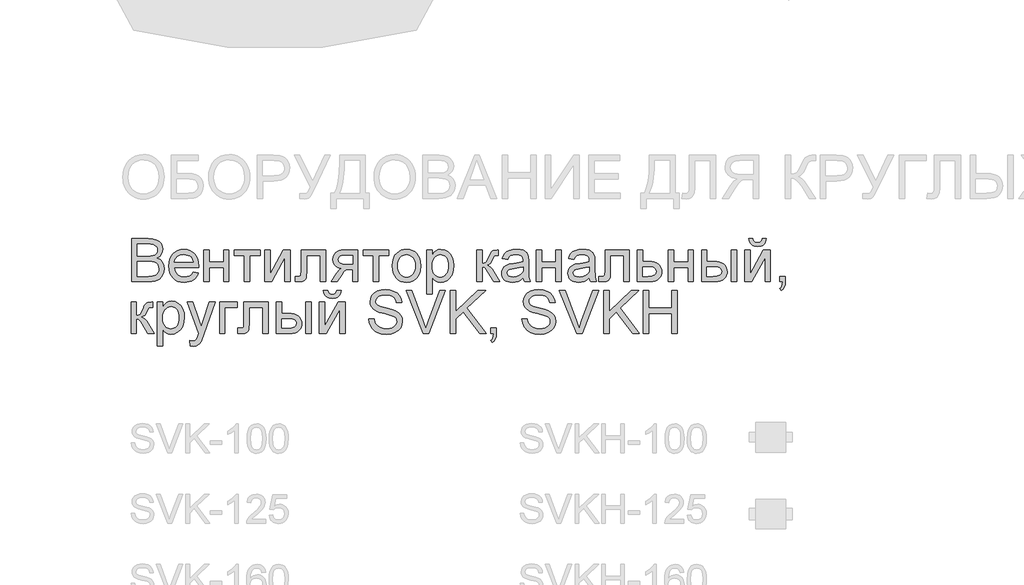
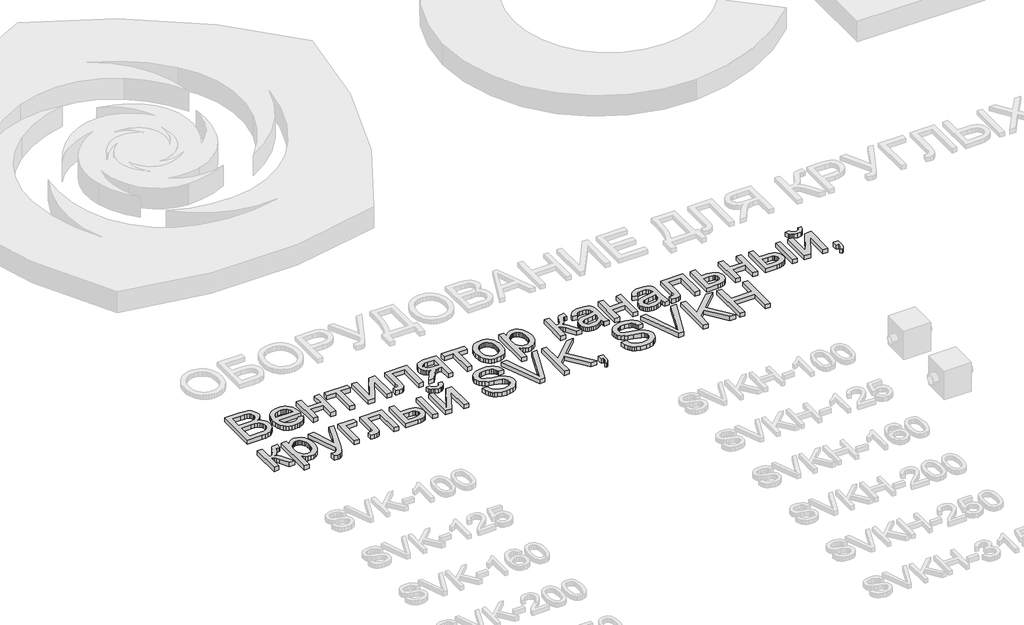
# One storey, part 17 of 31: 1 proxy.
"""IFC4 building model written with IfcOpenShell, lengths in millimetres."""

from ifc_helpers import new_model, si_unit, origin, origin_with_axes, place, context, project, spatial, polyline, outline, extrude, element, save

model = new_model("IFC4")

# Units and contexts
model_context = context("Model", 3, world=origin())
ifc_project = project(units=[si_unit("LENGTHUNIT", "METRE", prefix="MILLI")], contexts=[model_context])

# Site, building, storey
site = spatial("IfcSite", under=ifc_project)
building = spatial("IfcBuilding", under=site)
storey = spatial("IfcBuildingStorey", under=building, Name="Этаж 01", Elevation=0.0)

# Proxy
placement = place(None, origin())
element("IfcBuildingElementProxy", 1, Name="450 мм Arial", ObjectType="450 мм Arial", at=placement, inside=storey, context=model_context, shape_type="SweptSolid", body=[
    extrude(outline(polyline([(819.0852891, -2479.5055236), (819.0852891, -2029.8493808), (990.6703846, -2029.8493808), (1037.8617749, -2033.1564832), (1074.7064631, -2043.0777903), (1102.9471962, -2059.8603056), (1124.326721, -2083.7510327), (1137.7884116, -2111.8545416), (1142.2756418, -2141.2754025), (1138.5019773, -2168.3497302), (1127.1809837, -2193.8048128), (1108.2303265, -2216.0762947), (1081.5676713, -2233.5998205), (1113.4173999, -2250.2313893), (1136.9513442, -2275.5355253), (1151.4833832, -2307.8380936), (1156.3273962, -2345.4649596), (1153.0202939, -2376.8206812), (1143.0989868, -2405.8984817), (1128.2924994, -2430.6262762), (1110.3298562, -2448.9319797), (1088.3328226, -2462.1878341), (1061.423164, -2471.7660807), (1028.7226455, -2477.5706629), (989.3530327, -2479.5055236), (819.0852891, -2479.5055236)]), holes=[polyline([(875.292307, -2212.5221888), (977.9359822, -2212.5221888), (1013.8338236, -2211.3146162), (1037.8754973, -2207.6918982), (1058.8570721, -2199.3623914), (1073.9380078, -2186.8887149), (1083.0359699, -2170.4629824), (1086.0686239, -2150.2773077), (1083.2418061, -2130.681697), (1074.7613528, -2113.6110109), (1061.0114915, -2100.2865445), (1042.3764499, -2091.9295929), (1013.778934, -2087.5246972), (970.1416496, -2086.0563987), (875.292307, -2086.0563987), (875.292307, -2212.5221888)]), polyline([(875.292307, -2423.2985058), (990.5606053, -2423.2985058), (1032.2767514, -2421.1029192), (1051.639081, -2416.2314613), (1067.5708065, -2408.8625237), (1080.5247677, -2398.3099854), (1090.9538042, -2383.8877257), (1097.8287348, -2366.2406981), (1100.1203784, -2346.0138562), (1097.4307848, -2322.5210792), (1089.3620039, -2302.3216822), (1075.2690822, -2286.5271809), (1054.5070661, -2276.2490909), (1025.0999276, -2270.6091777), (985.0716387, -2268.7292067), (875.292307, -2268.7292067), (875.292307, -2423.2985058)])]), origin_with_axes(), (0.0, 0.0, 1.0), 50.0),
    extrude(outline(polyline([(1457.7814412, -2381.1432424), (1512.8906657, -2388.1691196), (1504.4410878, -2410.2416265), (1493.0343291, -2429.6931519), (1478.6703897, -2446.5236957), (1461.3492695, -2460.7332579), (1441.24936, -2472.0199455), (1418.5490525, -2480.0818651), (1393.2483472, -2484.9190169), (1365.3472439, -2486.5314009), (1330.4717224, -2483.7491809), (1299.3973103, -2475.4025211), (1272.1240076, -2461.4914214), (1248.6518142, -2442.0158818), (1229.7766304, -2417.5179378), (1216.2943562, -2388.5396249), (1208.2049917, -2355.0809429), (1205.5085369, -2317.141892), (1208.2324365, -2277.9163645), (1216.4041355, -2243.3427362), (1230.0236339, -2213.4210071), (1249.0909316, -2188.1511772), (1272.5013741, -2168.0752819), (1299.1503068, -2153.7353567), (1329.0377299, -2145.1314016), (1362.1636433, -2142.2634165), (1394.2226387, -2145.1245404), (1423.2146741, -2153.7079119), (1449.1397494, -2168.013531), (1471.9978647, -2188.0413979), (1490.6569205, -2213.2563381), (1503.9848175, -2243.1231776), (1511.9815557, -2277.6419162), (1514.6471351, -2316.812554), (1514.3177971, -2331.9621018), (1261.7155547, -2331.9621018), (1264.971198, -2354.3913915), (1271.444748, -2374.0350307), (1281.1362046, -2390.8930193), (1294.0455679, -2404.9653574), (1309.4592722, -2416.0599311), (1326.6637519, -2423.9846266), (1345.6590069, -2428.7394439), (1366.4450372, -2430.324383), (1396.3599051, -2427.3877859), (1421.5542617, -2418.5779945), (1442.0281071, -2403.3461122), (1457.7814412, -2381.1432424)]), holes=[polyline([(1261.7155547, -2275.7550839), (1458.4401172, -2275.7550839), (1450.8378985, -2246.0597747), (1435.9353542, -2224.817474), (1420.607415, -2213.2906442), (1403.1662237, -2205.0571943), (1383.6117802, -2200.1171244), (1361.9440846, -2198.4704344), (1324.0564927, -2203.7261199), (1292.7282159, -2219.4931764), (1280.2716924, -2230.8930739), (1270.950741, -2244.0700243), (1264.7653618, -2259.0240276), (1261.7155547, -2275.7550839)])]), origin_with_axes(), (0.0, 0.0, 1.0), 50.0),
    extrude(outline(polyline([(1570.8541529, -2149.2892938), (1627.0611708, -2149.2892938), (1627.0611708, -2275.7550839), (1774.6045926, -2275.7550839), (1774.6045926, -2149.2892938), (1830.8116105, -2149.2892938), (1830.8116105, -2479.5055236), (1774.6045926, -2479.5055236), (1774.6045926, -2331.9621018), (1627.0611708, -2331.9621018), (1627.0611708, -2479.5055236), (1570.8541529, -2479.5055236), (1570.8541529, -2149.2892938)])), origin_with_axes(), (0.0, 0.0, 1.0), 50.0),
    extrude(outline(polyline([(1887.0186283, -2149.2892938), (2154.0019631, -2149.2892938), (2154.0019631, -2205.4963116), (2048.6138046, -2205.4963116), (2048.6138046, -2479.5055236), (1992.4067868, -2479.5055236), (1992.4067868, -2205.4963116), (1887.0186283, -2205.4963116), (1887.0186283, -2149.2892938)])), origin_with_axes(), (0.0, 0.0, 1.0), 50.0),
    extrude(outline(polyline([(2203.1831037, -2149.2892938), (2259.3901216, -2149.2892938), (2259.3901216, -2401.1230808), (2397.4925209, -2149.2892938), (2470.1664385, -2149.2892938), (2470.1664385, -2479.5055236), (2413.9594207, -2479.5055236), (2413.9594207, -2229.2086473), (2276.735256, -2479.5055236), (2203.1831037, -2479.5055236), (2203.1831037, -2149.2892938)])), origin_with_axes(), (0.0, 0.0, 1.0), 50.0),
    extrude(outline(polyline([(2582.5804742, -2149.2892938), (2835.5120546, -2149.2892938), (2835.5120546, -2479.1761856), (2779.3050367, -2479.1761856), (2779.3050367, -2205.4963116), (2638.7874921, -2205.4963116), (2638.7874921, -2363.0296527), (2635.0001051, -2435.7035703), (2627.9056158, -2452.1567476), (2614.1969218, -2466.3868935), (2593.3937384, -2476.2258661), (2565.0157812, -2479.5055236), (2519.3475792, -2476.651261), (2519.3475792, -2423.2985058), (2544.4870461, -2423.2985058), (2569.9009614, -2419.8404568), (2576.2544403, -2415.3669491), (2580.0555496, -2408.8625237), (2582.5804742, -2359.846052), (2582.5804742, -2149.2892938)])), origin_with_axes(), (0.0, 0.0, 1.0), 50.0),
    extrude(outline(polyline([(3172.7541617, -2149.2892938), (3172.7541617, -2479.5055236), (3116.5471438, -2479.5055236), (3116.5471438, -2353.0397335), (3085.9187103, -2353.0397335), (3061.492809, -2354.8236476), (3044.2025642, -2360.17539), (3027.5435506, -2375.7366103), (3005.0113428, -2408.148958), (2960.2213754, -2479.5055236), (2895.232011, -2479.5055236), (2951.6585876, -2389.2669129), (2976.5784959, -2356.8820101), (2988.2974395, -2347.4409876), (2999.5223762, -2342.5009176), (2978.8838618, -2337.9382141), (2961.0996101, -2330.7270843), (2946.169621, -2320.8675281), (2934.0938945, -2308.3595455), (2918.1210017, -2278.6093465), (2912.7967041, -2244.687533), (2914.6149243, -2224.4469688), (2920.0695849, -2206.2098773), (2929.1606858, -2189.9762586), (2941.888227, -2175.7461127), (2958.0600948, -2164.1712544), (2977.4841754, -2155.9034985), (3000.1604686, -2150.9428449), (3026.0889745, -2149.2892938), (3172.7541617, -2149.2892938)]), holes=[polyline([(3116.5471438, -2205.4963116), (3042.4460949, -2205.4963116), (3004.1742754, -2208.7485243), (2991.2443285, -2212.8137902), (2982.4516901, -2218.5051624), (2972.365714, -2232.625529), (2969.003722, -2248.968927), (2973.9575143, -2270.3896191), (2988.8188914, -2285.2509961), (3016.2774467, -2293.9372857), (3059.022774, -2296.8327156), (3116.5471438, -2296.8327156), (3116.5471438, -2205.4963116)])]), origin_with_axes(), (0.0, 0.0, 1.0), 50.0),
    extrude(outline(polyline([(3228.9611795, -2149.2892938), (3495.9445143, -2149.2892938), (3495.9445143, -2205.4963116), (3390.5563559, -2205.4963116), (3390.5563559, -2479.5055236), (3334.349338, -2479.5055236), (3334.349338, -2205.4963116), (3228.9611795, -2205.4963116), (3228.9611795, -2149.2892938)])), origin_with_axes(), (0.0, 0.0, 1.0), 50.0),
    extrude(outline(polyline([(3531.0739005, -2314.3974087), (3534.1134157, -2271.6314978), (3543.2319615, -2234.7799484), (3558.4295377, -2203.8427604), (3579.7061445, -2178.819934), (3601.1268366, -2162.8264576), (3624.7705601, -2151.4025459), (3650.6373152, -2144.5481989), (3678.7271017, -2142.2634165), (3709.7363323, -2145.0456365), (3737.7746598, -2153.3922963), (3762.842084, -2167.303396), (3784.9386052, -2186.7789355), (3802.973291, -2211.160239), (3815.8552095, -2239.7886304), (3823.5843605, -2272.6641096), (3826.1607442, -2309.7866768), (3821.604902, -2366.5700361), (3815.9100991, -2389.8775605), (3807.9373752, -2409.795648), (3785.5561139, -2442.1668284), (3754.8590683, -2466.3868935), (3718.3986077, -2481.495274), (3678.7271017, -2486.5314009), (3647.2650313, -2483.7594727), (3618.965978, -2475.4436884), (3593.8299416, -2461.5840477), (3571.8569222, -2442.1805508), (3554.0143502, -2417.5625357), (3541.2696559, -2388.0593403), (3533.6228394, -2353.6709646), (3531.0739005, -2314.3974087)]), holes=[polyline([(3587.2809184, -2314.2876294), (3588.9070247, -2341.5506403), (3593.7853438, -2365.1566272), (3601.9158755, -2385.1055902), (3613.29862, -2401.3975291), (3627.1445382, -2414.0530277), (3642.6645912, -2423.0926695), (3659.858779, -2428.5164546), (3678.7271017, -2430.324383), (3697.4993674, -2428.5061628), (3714.6249432, -2423.0515023), (3730.1038289, -2413.9604014), (3743.9360247, -2401.2328601), (3755.3187692, -2384.7796828), (3763.449301, -2364.5116736), (3768.32762, -2340.4288327), (3769.9537264, -2312.5311601), (3768.3173282, -2286.1326614), (3763.4081337, -2263.1441832), (3755.2261429, -2243.5657255), (3743.7713557, -2227.3972883), (3729.8877009, -2214.7417897), (3714.4191069, -2205.7021479), (3697.3655739, -2200.2783627), (3678.7271017, -2198.4704344), (3659.858779, -2200.2715015), (3642.6645912, -2205.674703), (3627.1445382, -2214.6800388), (3613.29862, -2227.287509), (3601.9158755, -2243.5314195), (3593.7853438, -2263.4460764), (3588.9070247, -2287.0314797), (3587.2809184, -2314.2876294)])]), origin_with_axes(), (0.0, 0.0, 1.0), 50.0),
    extrude(outline(polyline([(3889.3936393, -2605.9713138), (3889.3936393, -2149.2892938), (3945.6006572, -2149.2892938), (3945.6006572, -2204.3985183), (3963.9338056, -2177.2144113), (3984.4625406, -2157.797192), (4008.3944349, -2146.1468604), (4036.9370612, -2142.2634165), (4074.9481548, -2147.6974934), (4108.1838475, -2163.9997242), (4135.2444527, -2190.1820948), (4154.7302841, -2225.2565913), (4166.5041175, -2266.6708442), (4170.4287286, -2311.8724841), (4165.996388, -2359.942109), (4152.6993665, -2402.9344397), (4130.9630588, -2438.6676122), (4101.2128599, -2464.9597622), (4066.5637583, -2481.1384912), (4030.1307426, -2486.5314009), (4004.2914324, -2482.9224053), (3981.2240503, -2472.0954187), (3961.477493, -2455.7520207), (3945.6006572, -2435.5937909), (3945.6006572, -2605.9713138), (3889.3936393, -2605.9713138)]), holes=[polyline([(3945.6006572, -2317.0321127), (3947.1204148, -2344.1201628), (3951.6796877, -2367.4208259), (3959.2784758, -2386.9341021), (3969.9167791, -2402.6599914), (3982.7232243, -2414.7631627), (3996.8264378, -2423.4082851), (4012.2264197, -2428.5953585), (4028.92317, -2430.324383), (4045.8600625, -2428.5336077), (4061.5413539, -2423.1612816), (4075.9670442, -2414.2074049), (4089.1371334, -2401.6719774), (4100.111636, -2385.3766079), (4107.9505664, -2365.1429048), (4112.6539246, -2340.9708682), (4114.2217107, -2312.8604981), (4112.6916613, -2286.005729), (4108.101513, -2262.7462331), (4100.4512658, -2243.0820103), (4089.7409197, -2227.0130606), (4076.9035991, -2214.5256616), (4062.8724283, -2205.6060909), (4047.6474072, -2200.2543485), (4031.2285359, -2198.4704344), (4014.8611237, -2200.3675585), (3999.4611418, -2206.0589307), (3985.0285903, -2215.5445511), (3971.5634691, -2228.8244196), (3960.2047389, -2245.7201449), (3952.0913601, -2266.0533355), (3947.2233329, -2289.8239914), (3945.6006572, -2317.0321127)])]), origin_with_axes(), (0.0, 0.0, 1.0), 50.0),
    extrude(outline(polyline([(4409.3085544, -2149.2892938), (4465.5155723, -2149.2892938), (4465.5155723, -2289.8068384), (4488.3771181, -2287.2819138), (4503.1698831, -2279.7071399), (4516.2610684, -2259.9468602), (4534.0178753, -2220.8654181), (4548.3303557, -2188.9059101), (4559.6513493, -2170.0924771), (4570.2176099, -2159.841832), (4582.2658916, -2153.5706877), (4623.3782513, -2149.2892938), (4634.1366258, -2149.2892938), (4634.1366258, -2205.8256496), (4618.9870781, -2205.4963116), (4601.422385, -2206.9783326), (4591.5422451, -2211.4243955), (4572.2210827, -2248.4200303), (4560.3511925, -2273.0792127), (4549.5516507, -2288.4345967), (4536.4741878, -2298.6852418), (4517.7705342, -2308.0302075), (4535.5822308, -2315.9411805), (4553.2292584, -2329.9037393), (4570.7116169, -2349.9178837), (4588.0293065, -2375.9836138), (4648.1883803, -2479.5055236), (4584.2968092, -2479.5055236), (4525.3453081, -2378.1792004), (4509.427305, -2351.2146521), (4495.7048885, -2335.3103714), (4481.8452479, -2327.5297613), (4465.5155723, -2324.9362245), (4465.5155723, -2479.5055236), (4409.3085544, -2479.5055236), (4409.3085544, -2149.2892938)])), origin_with_axes(), (0.0, 0.0, 1.0), 50.0),
    extrude(outline(polyline([(4894.0940834, -2437.3502602), (4867.2393144, -2460.3764751), (4839.5886452, -2475.4436884), (4810.5108447, -2483.7594727), (4779.3746817, -2486.5314009), (4754.3484247, -2484.8641273), (4732.4028502, -2479.8623065), (4713.5379581, -2471.5259385), (4697.7537486, -2459.8550233), (4685.2903638, -2445.5905713), (4676.3879462, -2429.4735932), (4671.0464955, -2411.5040888), (4669.266012, -2391.6820582), (4671.9556056, -2368.3813951), (4680.0243865, -2347.2214289), (4692.4706183, -2329.1078392), (4708.2925644, -2314.9463054), (4726.8864388, -2304.2428205), (4747.6484549, -2296.5033776), (4796.2806988, -2288.0503691), (4853.750179, -2279.1582432), (4893.7647454, -2268.7292067), (4894.0940834, -2256.2143629), (4890.224362, -2231.1297856), (4878.6151976, -2214.7177755), (4852.6523857, -2202.5322697), (4816.4800959, -2198.4704344), (4782.9973997, -2201.1737504), (4759.614402, -2209.2836986), (4743.6689541, -2224.2822998), (4732.4989071, -2247.651575), (4676.2918892, -2240.6256978), (4686.0485273, -2209.8874849), (4700.6080112, -2185.7360319), (4721.3288601, -2167.2656593), (4749.5695932, -2153.5706877), (4784.1089154, -2145.0902343), (4823.7255318, -2142.2634165), (4861.722903, -2144.7608963), (4891.8436071, -2152.2533357), (4914.5542064, -2163.5194396), (4930.3212629, -2177.337913), (4940.7777442, -2194.4223215), (4947.556618, -2215.4862308), (4950.3011013, -2264.6673714), (4950.3011013, -2334.5968057), (4953.1553639, -2432.2455213), (4964.3528557, -2479.5055236), (4908.1458379, -2479.5055236), (4899.1439327, -2459.9648026), (4894.0940834, -2437.3502602)]), holes=[polyline([(4894.0940834, -2324.9362245), (4856.3299933, -2334.2949126), (4803.4163554, -2342.1715796), (4755.0585598, -2351.2832642), (4742.4751039, -2357.5132412), (4733.1575831, -2366.1034739), (4727.3941682, -2376.3952863), (4725.4730299, -2387.7300023), (4729.6583669, -2404.4439056), (4742.2143779, -2418.1388772), (4762.8666147, -2427.2780066), (4791.3406289, -2430.324383), (4821.5299451, -2426.962391), (4848.2063227, -2416.8764149), (4869.8328511, -2402.0150378), (4884.8726195, -2384.326843), (4891.541714, -2366.1034739), (4893.7647454, -2340.8542276), (4894.0940834, -2324.9362245)])]), origin_with_axes(), (0.0, 0.0, 1.0), 50.0),
    extrude(outline(polyline([(5027.5857508, -2149.2892938), (5083.7927687, -2149.2892938), (5083.7927687, -2275.7550839), (5231.3361905, -2275.7550839), (5231.3361905, -2149.2892938), (5287.5432084, -2149.2892938), (5287.5432084, -2479.5055236), (5231.3361905, -2479.5055236), (5231.3361905, -2331.9621018), (5083.7927687, -2331.9621018), (5083.7927687, -2479.5055236), (5027.5857508, -2479.5055236), (5027.5857508, -2149.2892938)])), origin_with_axes(), (0.0, 0.0, 1.0), 50.0),
    extrude(outline(polyline([(5582.6300521, -2437.3502602), (5555.7752831, -2460.3764751), (5528.1246139, -2475.4436884), (5499.0468134, -2483.7594727), (5467.9106504, -2486.5314009), (5442.8843934, -2484.8641273), (5420.9388189, -2479.8623065), (5402.0739268, -2471.5259385), (5386.2897173, -2459.8550233), (5373.8263325, -2445.5905713), (5364.9239148, -2429.4735932), (5359.5824642, -2411.5040888), (5357.8019807, -2391.6820582), (5360.4915743, -2368.3813951), (5368.5603552, -2347.2214289), (5381.0065869, -2329.1078392), (5396.8285331, -2314.9463054), (5415.4224074, -2304.2428205), (5436.1844236, -2296.5033776), (5484.8166675, -2288.0503691), (5542.2861477, -2279.1582432), (5582.3007141, -2268.7292067), (5582.6300521, -2256.2143629), (5578.7603307, -2231.1297856), (5567.1511663, -2214.7177755), (5541.1883544, -2202.5322697), (5505.0160646, -2198.4704344), (5471.5333684, -2201.1737504), (5448.1503707, -2209.2836986), (5432.2049228, -2224.2822998), (5421.0348758, -2247.651575), (5364.8278579, -2240.6256978), (5374.584496, -2209.8874849), (5389.1439799, -2185.7360319), (5409.8648288, -2167.2656593), (5438.1055619, -2153.5706877), (5472.6448841, -2145.0902343), (5512.2615005, -2142.2634165), (5550.2588717, -2144.7608963), (5580.3795758, -2152.2533357), (5603.0901751, -2163.5194396), (5618.8572316, -2177.337913), (5629.3137129, -2194.4223215), (5636.0925867, -2215.4862308), (5638.83707, -2264.6673714), (5638.83707, -2334.5968057), (5641.6913326, -2432.2455213), (5652.8888244, -2479.5055236), (5596.6818066, -2479.5055236), (5587.6799014, -2459.9648026), (5582.6300521, -2437.3502602)]), holes=[polyline([(5582.6300521, -2324.9362245), (5544.865962, -2334.2949126), (5491.9523241, -2342.1715796), (5443.5945285, -2351.2832642), (5431.0110725, -2357.5132412), (5421.6935518, -2366.1034739), (5415.9301369, -2376.3952863), (5414.0089985, -2387.7300023), (5418.1943356, -2404.4439056), (5430.7503466, -2418.1388772), (5451.4025834, -2427.2780066), (5479.8765976, -2430.324383), (5510.0659138, -2426.962391), (5536.7422914, -2416.8764149), (5558.3688198, -2402.0150378), (5573.4085882, -2384.326843), (5580.0776826, -2366.1034739), (5582.3007141, -2340.8542276), (5582.6300521, -2324.9362245)])]), origin_with_axes(), (0.0, 0.0, 1.0), 50.0),
    extrude(outline(polyline([(5744.2252284, -2149.2892938), (5997.1568088, -2149.2892938), (5997.1568088, -2479.1761856), (5940.9497909, -2479.1761856), (5940.9497909, -2205.4963116), (5800.4322463, -2205.4963116), (5800.4322463, -2363.0296527), (5796.6448593, -2435.7035703), (5789.55037, -2452.1567476), (5775.841676, -2466.3868935), (5755.0384926, -2476.2258661), (5726.6605353, -2479.5055236), (5680.9923333, -2476.651261), (5680.9923333, -2423.2985058), (5706.1318003, -2423.2985058), (5731.5457156, -2419.8404568), (5737.8991944, -2415.3669491), (5741.7003038, -2408.8625237), (5744.2252284, -2359.846052), (5744.2252284, -2149.2892938)])), origin_with_axes(), (0.0, 0.0, 1.0), 50.0),
    extrude(outline(polyline([(6081.4673355, -2149.2892938), (6137.6743534, -2149.2892938), (6137.6743534, -2268.7292067), (6202.4441591, -2268.7292067), (6232.3453046, -2270.4891066), (6258.5962873, -2275.7688063), (6281.1971072, -2284.5683059), (6300.1477644, -2296.8876053), (6315.1326432, -2312.3013096), (6325.836128, -2330.3840239), (6332.2582189, -2351.1357482), (6334.3989159, -2374.5564825), (6332.5772651, -2395.4522922), (6327.1123127, -2414.7768852), (6318.0040588, -2432.5302615), (6305.2525033, -2448.7124211), (6288.4940022, -2462.1844035), (6267.3649114, -2471.807248), (6241.865231, -2477.5809547), (6211.994961, -2479.5055236), (6081.4673355, -2479.5055236), (6081.4673355, -2149.2892938)]), holes=[polyline([(6137.6743534, -2423.2985058), (6190.148874, -2423.2985058), (6230.8632836, -2420.3481862), (6257.9376113, -2411.4972276), (6273.1283263, -2396.3888471), (6278.191898, -2374.6662618), (6274.4456783, -2356.3056686), (6263.2070192, -2340.0857723), (6253.4400893, -2333.4578452), (6239.1241783, -2328.7236115), (6196.8454132, -2324.9362245), (6137.6743534, -2324.9362245), (6137.6743534, -2423.2985058)])]), origin_with_axes(), (0.0, 0.0, 1.0), 50.0),
    extrude(outline(polyline([(6404.6576882, -2149.2892938), (6460.864706, -2149.2892938), (6460.864706, -2275.7550839), (6608.4081279, -2275.7550839), (6608.4081279, -2149.2892938), (6664.6151458, -2149.2892938), (6664.6151458, -2479.5055236), (6608.4081279, -2479.5055236), (6608.4081279, -2331.9621018), (6460.864706, -2331.9621018), (6460.864706, -2479.5055236), (6404.6576882, -2479.5055236), (6404.6576882, -2149.2892938)])), origin_with_axes(), (0.0, 0.0, 1.0), 50.0),
    extrude(outline(polyline([(6748.9256725, -2149.2892938), (6805.1326904, -2149.2892938), (6805.1326904, -2268.7292067), (6874.6230074, -2268.7292067), (6906.5996684, -2270.4891066), (6934.6860243, -2275.7688063), (6958.8820751, -2284.5683059), (6979.1878209, -2296.8876053), (6995.2533399, -2312.3013096), (7006.7287107, -2330.3840239), (7013.6139332, -2351.1357482), (7015.9090073, -2374.5564825), (7013.9844384, -2395.4522922), (7008.2107317, -2414.7768852), (6998.5878871, -2432.5302615), (6985.1159048, -2448.7124211), (6967.4174181, -2462.1844035), (6945.1150608, -2471.807248), (6918.2088327, -2477.5809547), (6886.6987339, -2479.5055236), (6748.9256725, -2479.5055236), (6748.9256725, -2149.2892938)]), holes=[polyline([(6805.1326904, -2423.2985058), (6862.8766189, -2423.2985058), (6907.6391414, -2420.3481862), (6937.4167851, -2411.4972276), (6954.1306884, -2396.3888471), (6959.7019895, -2374.6662618), (6955.5715421, -2356.3056686), (6943.1802001, -2340.0857723), (6932.4252561, -2333.4578452), (6916.6822139, -2328.7236115), (6870.2318341, -2324.9362245), (6805.1326904, -2324.9362245), (6805.1326904, -2423.2985058)])]), origin_with_axes(), (0.0, 0.0, 1.0), 50.0),
    extrude(outline(polyline([(7058.0642707, -2149.2892938), (7114.2712886, -2149.2892938), (7114.2712886, -2479.5055236), (7058.0642707, -2479.5055236), (7058.0642707, -2149.2892938)])), origin_with_axes(), (0.0, 0.0, 1.0), 50.0),
    extrude(outline(polyline([(7381.2546234, -2029.8493808), (7423.4098868, -2029.8493808), (7414.3393695, -2065.8432792), (7406.3769373, -2080.2895532), (7396.1297228, -2092.3687102), (7383.8035622, -2101.9023591), (7369.6042918, -2108.7121083), (7335.5864214, -2114.1599076), (7298.6731211, -2108.7532755), (7283.3245982, -2101.9949854), (7270.0481603, -2092.5333792), (7259.0359211, -2080.5056812), (7250.4799944, -2066.0491155), (7240.7370787, -2029.8493808), (7282.8923421, -2029.8493808), (7288.820426, -2048.3609206), (7298.7005659, -2061.520718), (7312.5876514, -2069.3836627), (7330.5365721, -2072.0046442), (7350.7908588, -2069.4659972), (7365.4463996, -2061.850056), (7375.3265395, -2048.7725931), (7381.2546234, -2029.8493808)])), origin_with_axes(), (0.0, 0.0, 1.0), 50.0),
    extrude(outline(polyline([(7198.5818154, -2149.2892938), (7254.7888332, -2149.2892938), (7254.7888332, -2401.1230808), (7392.8912325, -2149.2892938), (7465.5651502, -2149.2892938), (7465.5651502, -2479.5055236), (7409.3581323, -2479.5055236), (7409.3581323, -2229.2086473), (7272.1339676, -2479.5055236), (7198.5818154, -2479.5055236), (7198.5818154, -2149.2892938)])), origin_with_axes(), (0.0, 0.0, 1.0), 50.0),
    extrude(outline(polyline([(7563.9274314, -2479.5055236), (7563.9274314, -2423.2985058), (7620.1344492, -2423.2985058), (7620.1344492, -2479.5055236), (7617.6095246, -2511.6571454), (7610.0347507, -2536.9750038), (7596.9710102, -2556.3922231), (7577.9791859, -2570.8419276), (7563.9274314, -2549.764296), (7576.1129372, -2539.5822629), (7584.5659458, -2525.5030636), (7589.6981295, -2505.9897874), (7591.921161, -2479.5055236), (7563.9274314, -2479.5055236)])), origin_with_axes(), (0.0, 0.0, 1.0), 50.0),
    extrude(outline(polyline([(812.0594119, -2689.7213769), (868.2664298, -2689.7213769), (868.2664298, -2830.2389216), (891.1279756, -2827.7139969), (905.9207405, -2820.139223), (919.0119258, -2800.3789433), (936.7687328, -2761.2975012), (951.0812131, -2729.3379933), (962.4022067, -2710.5245603), (972.9684674, -2700.2739152), (985.0167491, -2694.0027709), (1026.1291088, -2689.7213769), (1036.8874833, -2689.7213769), (1036.8874833, -2746.2577328), (1021.7379355, -2745.9283948), (1004.1732424, -2747.4104158), (994.2931026, -2751.8564787), (974.9719402, -2788.8521135), (963.10205, -2813.5112959), (952.3025082, -2828.8666799), (939.2250453, -2839.117325), (920.5213917, -2848.4622906), (938.3330882, -2856.3732637), (955.9801158, -2870.3358225), (973.4624744, -2890.3499669), (990.780164, -2916.415697), (1050.9392378, -3019.9376068), (987.0476667, -3019.9376068), (928.0961656, -2918.6112836), (912.1781624, -2891.6467353), (898.455746, -2875.7424546), (884.5961053, -2867.9618444), (868.2664298, -2865.3683077), (868.2664298, -3019.9376068), (812.0594119, -3019.9376068), (812.0594119, -2689.7213769)])), origin_with_axes(), (0.0, 0.0, 1.0), 50.0),
    extrude(outline(polyline([(1086.0686239, -3146.403397), (1086.0686239, -2689.7213769), (1142.2756418, -2689.7213769), (1142.2756418, -2744.8306015), (1160.6087902, -2717.6464944), (1181.1375252, -2698.2292751), (1205.0694195, -2686.5789436), (1233.6120458, -2682.6954997), (1271.6231394, -2688.1295766), (1304.8588321, -2704.4318074), (1331.9194374, -2730.614178), (1351.4052687, -2765.6886745), (1363.1791021, -2807.1029274), (1367.1037132, -2852.3045672), (1362.6713727, -2900.3741921), (1349.3743511, -2943.3665229), (1327.6380434, -2979.0996954), (1297.8878445, -3005.3918454), (1263.2387429, -3021.5705744), (1226.8057272, -3026.963484), (1200.966417, -3023.3544885), (1177.8990349, -3012.5275019), (1158.1524776, -2996.1841039), (1142.2756418, -2976.0258741), (1142.2756418, -3146.403397), (1086.0686239, -3146.403397)]), holes=[polyline([(1142.2756418, -2857.4641958), (1143.7953994, -2884.5522459), (1148.3546723, -2907.8529091), (1155.9534604, -2927.3661853), (1166.5917638, -2943.0920746), (1179.3982089, -2955.1952459), (1193.5014225, -2963.8403683), (1208.9014043, -2969.0274417), (1225.5981546, -2970.7564662), (1242.5350471, -2968.9656908), (1258.2163385, -2963.5933648), (1272.6420288, -2954.6394881), (1285.812118, -2942.1040606), (1296.7866206, -2925.8086911), (1304.625551, -2905.574988), (1309.3289093, -2881.4029514), (1310.8966953, -2853.2925812), (1309.3666459, -2826.4378122), (1304.7764976, -2803.1783163), (1297.1262504, -2783.5140935), (1286.4159044, -2767.4451438), (1273.5785838, -2754.9577448), (1259.5474129, -2746.0381741), (1244.3223918, -2740.6864317), (1227.9035205, -2738.9025176), (1211.5361083, -2740.7996416), (1196.1361264, -2746.4910139), (1181.7035749, -2755.9766342), (1168.2384537, -2769.2565028), (1156.8797235, -2786.1522281), (1148.7663448, -2806.4854187), (1143.8983175, -2830.2560746), (1142.2756418, -2857.4641958)])]), origin_with_axes(), (0.0, 0.0, 1.0), 50.0),
    extrude(outline(polyline([(1430.3366083, -3146.403397), (1423.310731, -3092.2821864), (1451.8533573, -3097.2222564), (1466.8656809, -3095.6716233), (1478.5297349, -3091.0197241), (1494.8868553, -3073.7294794), (1510.2559618, -3032.3426713), (1514.6471351, -3018.7300342), (1395.2072221, -2689.7213769), (1454.4880613, -2689.7213769), (1517.8307357, -2873.0528609), (1539.8963814, -2946.3854545), (1561.962027, -2881.6156488), (1627.0611708, -2689.7213769), (1685.9028926, -2689.7213769), (1570.9639322, -3027.8417187), (1541.103954, -3101.1743123), (1525.8171821, -3124.5847548), (1508.4994925, -3140.8046511), (1488.3824299, -3150.2731184), (1464.6975391, -3153.4292742), (1430.3366083, -3146.403397)])), origin_with_axes(), (0.0, 0.0, 1.0), 50.0),
    extrude(outline(polyline([(1732.4493292, -2689.7213769), (1915.1221372, -2689.7213769), (1915.1221372, -2745.9283948), (1788.6563471, -2745.9283948), (1788.6563471, -3019.9376068), (1732.4493292, -3019.9376068), (1732.4493292, -2689.7213769)])), origin_with_axes(), (0.0, 0.0, 1.0), 50.0),
    extrude(outline(polyline([(1985.3809096, -2689.7213769), (2238.3124899, -2689.7213769), (2238.3124899, -3019.6082688), (2182.105472, -3019.6082688), (2182.105472, -2745.9283948), (2041.5879274, -2745.9283948), (2041.5879274, -2903.4617358), (2037.8005405, -2976.1356535), (2030.7060512, -2992.5888308), (2016.9973571, -3006.8189767), (1996.1941737, -3016.6579493), (1967.8162165, -3019.9376068), (1922.1480145, -3017.0833442), (1922.1480145, -2963.730589), (1947.2874814, -2963.730589), (1972.7013967, -2960.27254), (1979.0548756, -2955.7990322), (1982.8559849, -2949.2946068), (1985.3809096, -2900.2781352), (1985.3809096, -2689.7213769)])), origin_with_axes(), (0.0, 0.0, 1.0), 50.0),
    extrude(outline(polyline([(2631.7616149, -2689.7213769), (2687.9686327, -2689.7213769), (2687.9686327, -3019.9376068), (2631.7616149, -3019.9376068), (2631.7616149, -2689.7213769)])), origin_with_axes(), (0.0, 0.0, 1.0), 50.0),
    extrude(outline(polyline([(2322.6230167, -2689.7213769), (2378.8300345, -2689.7213769), (2378.8300345, -2809.1612899), (2448.3203515, -2809.1612899), (2480.2970125, -2810.9211898), (2508.3833684, -2816.2008895), (2532.5794192, -2825.0003891), (2552.885165, -2837.3196885), (2568.9506841, -2852.7333928), (2580.4260549, -2870.8161071), (2587.3112773, -2891.5678314), (2589.6063515, -2914.9885657), (2587.6817826, -2935.8843753), (2581.9080758, -2955.2089683), (2572.2852313, -2972.9623446), (2558.8132489, -2989.1445043), (2541.1147623, -3002.6164866), (2518.8124049, -3012.2393312), (2491.9061768, -3018.0130379), (2460.396078, -3019.9376068), (2322.6230167, -3019.9376068), (2322.6230167, -2689.7213769)]), holes=[polyline([(2378.8300345, -2963.730589), (2436.573963, -2963.730589), (2481.3364855, -2960.7802694), (2511.1141293, -2951.9293108), (2527.8280325, -2936.8209303), (2533.3993336, -2915.098345), (2529.2688863, -2896.7377518), (2516.8775442, -2880.5178555), (2506.1226003, -2873.8899283), (2490.379558, -2869.1556947), (2443.9291783, -2865.3683077), (2378.8300345, -2865.3683077), (2378.8300345, -2963.730589)])]), origin_with_axes(), (0.0, 0.0, 1.0), 50.0),
    extrude(outline(polyline([(2954.9519675, -2570.281464), (2997.1072309, -2570.281464), (2988.0367136, -2606.2753624), (2980.0742815, -2620.7216363), (2969.827067, -2632.8007934), (2957.5009064, -2642.3344423), (2943.3016359, -2649.1441914), (2909.2837655, -2654.5919908), (2872.3704652, -2649.1853587), (2857.0219424, -2642.4270686), (2843.7455045, -2632.9654624), (2832.7332652, -2620.9377644), (2824.1773386, -2606.4811986), (2814.4344229, -2570.281464), (2856.5896863, -2570.281464), (2862.5177702, -2588.7930038), (2872.39791, -2601.9528012), (2886.2849955, -2609.8157458), (2904.2339162, -2612.4367274), (2924.488203, -2609.8980803), (2939.1437437, -2602.2821392), (2949.0238836, -2589.2046763), (2954.9519675, -2570.281464)])), origin_with_axes(), (0.0, 0.0, 1.0), 50.0),
    extrude(outline(polyline([(2772.2791595, -2689.7213769), (2828.4861773, -2689.7213769), (2828.4861773, -2941.555164), (2966.5885767, -2689.7213769), (3039.2624943, -2689.7213769), (3039.2624943, -3019.9376068), (2983.0554764, -3019.9376068), (2983.0554764, -2769.6407304), (2845.8313118, -3019.9376068), (2772.2791595, -3019.9376068), (2772.2791595, -2689.7213769)])), origin_with_axes(), (0.0, 0.0, 1.0), 50.0),
    extrude(outline(polyline([(3285.1681974, -2865.3683077), (3341.3752152, -2865.3683077), (3347.824751, -2896.5593604), (3359.488805, -2921.6302152), (3377.6847292, -2941.5277191), (3403.7298757, -2957.1987187), (3435.5658819, -2967.3670293), (3471.1343854, -2970.7564662), (3502.4489397, -2968.1903743), (3529.8663278, -2960.4920987), (3552.0829201, -2948.3065929), (3567.795087, -2932.2788104), (3577.1400526, -2913.8770499), (3580.2550411, -2894.56961), (3577.9222303, -2875.756177), (3570.9237979, -2859.4951135), (3556.7073745, -2845.6217504), (3532.7205905, -2833.9714188), (3450.8800987, -2812.5095595), (3397.1568382, -2798.3068584), (3362.7821849, -2784.7902782), (3334.8021778, -2765.8807883), (3314.973286, -2742.9643528), (3303.1582854, -2716.5349787), (3299.2199519, -2687.086673), (3304.0914097, -2654.1665959), (3318.7057832, -2623.4695502), (3342.6788448, -2597.4518486), (3375.6263668, -2578.5698035), (3415.174371, -2567.084141), (3458.9488795, -2563.2555868), (3506.3735509, -2567.2625324), (3547.8701383, -2579.2833692), (3581.9566208, -2599.0710937), (3607.1509774, -2626.3787025), (3623.0964253, -2659.5046159), (3629.4361817, -2696.7472542), (3573.2291639, -2696.7472542), (3569.4692218, -2678.8120558), (3562.9099067, -2663.2096683), (3553.5512187, -2649.9400916), (3541.3931577, -2639.0033257), (3526.2093039, -2630.4542602), (3507.7732373, -2624.3477849), (3461.1444662, -2619.4626046), (3413.4179017, -2624.2928952), (3395.173949, -2630.3307585), (3380.676216, -2638.783767), (3361.7392813, -2660.1084022), (3357.0050476, -2672.2733244), (3355.4269697, -2685.439983), (3359.9004775, -2707.0390665), (3373.3210008, -2724.4116458), (3405.0472277, -2739.9454212), (3465.0965221, -2755.8085346), (3527.0669549, -2770.8757479), (3564.5565967, -2784.0218229), (3596.5984391, -2804.4133338), (3618.9522556, -2829.5802456), (3632.0846081, -2859.24811), (3636.462059, -2893.1424787), (3631.4259321, -2927.7915802), (3616.3175516, -2960.3823193), (3591.7544261, -2988.4309386), (3558.3540644, -3009.4536806), (3518.1885514, -3022.5860332), (3473.329972, -3026.963484), (3418.2619147, -3022.2429728), (3372.9367731, -3008.081439), (3353.7974328, -2997.4465662), (3336.8330954, -2984.423993), (3322.043761, -2969.0137193), (3309.4294297, -2951.2157451), (3291.8372918, -2910.7620614), (3285.1681974, -2865.3683077)])), origin_with_axes(), (0.0, 0.0, 1.0), 50.0),
    extrude(outline(polyline([(3853.6055772, -3019.9376068), (3674.6652664, -2570.281464), (3734.8243402, -2570.281464), (3854.5935911, -2894.240272), (3878.8548235, -2967.2435276), (3902.7867178, -2894.240272), (4022.8853067, -2570.281464), (4083.0443805, -2570.281464), (3911.6788436, -3019.9376068), (3853.6055772, -3019.9376068)])), origin_with_axes(), (0.0, 0.0, 1.0), 50.0),
    extrude(outline(polyline([(4135.2993424, -3019.9376068), (4135.2993424, -2570.281464), (4191.5063603, -2570.281464), (4191.5063603, -2790.3890241), (4422.0429569, -2570.281464), (4500.6449584, -2570.281464), (4307.1039966, -2755.1498587), (4507.6708357, -3019.9376068), (4438.948974, -3019.9376068), (4267.2540992, -2793.1335074), (4191.5063603, -2865.3683077), (4191.5063603, -3019.9376068), (4135.2993424, -3019.9376068)])), origin_with_axes(), (0.0, 0.0, 1.0), 50.0),
    extrude(outline(polyline([(4556.8519763, -3019.9376068), (4556.8519763, -2963.730589), (4613.0589942, -2963.730589), (4613.0589942, -3019.9376068), (4610.5340695, -3052.0892286), (4602.9592956, -3077.407087), (4589.8955552, -3096.8243063), (4570.9037308, -3111.2740108), (4556.8519763, -3090.1963791), (4569.0374821, -3080.0143461), (4577.4904907, -3065.9351468), (4582.6226744, -3046.4218706), (4584.8457059, -3019.9376068), (4556.8519763, -3019.9376068)])), origin_with_axes(), (0.0, 0.0, 1.0), 50.0),
    extrude(outline(polyline([(4880.042329, -2865.3683077), (4936.2493468, -2865.3683077), (4942.6988825, -2896.5593604), (4954.3629365, -2921.6302152), (4972.5588608, -2941.5277191), (4998.6040072, -2957.1987187), (5030.4400134, -2967.3670293), (5066.0085169, -2970.7564662), (5097.3230713, -2968.1903743), (5124.7404594, -2960.4920987), (5146.9570517, -2948.3065929), (5162.6692185, -2932.2788104), (5172.0141841, -2913.8770499), (5175.1291727, -2894.56961), (5172.7963619, -2875.756177), (5165.7979295, -2859.4951135), (5151.581506, -2845.6217504), (5127.594722, -2833.9714188), (5045.7542302, -2812.5095595), (4992.0309697, -2798.3068584), (4957.6563165, -2784.7902782), (4929.6763093, -2765.8807883), (4909.8474175, -2742.9643528), (4898.0324169, -2716.5349787), (4894.0940834, -2687.086673), (4898.9655413, -2654.1665959), (4913.5799148, -2623.4695502), (4937.5529764, -2597.4518486), (4970.5004983, -2578.5698035), (5010.0485026, -2567.084141), (5053.8230111, -2563.2555868), (5101.2476824, -2567.2625324), (5142.7442698, -2579.2833692), (5176.8307523, -2599.0710937), (5202.025109, -2626.3787025), (5217.9705569, -2659.5046159), (5224.3103133, -2696.7472542), (5168.1032954, -2696.7472542), (5164.3433533, -2678.8120558), (5157.7840383, -2663.2096683), (5148.4253502, -2649.9400916), (5136.2672892, -2639.0033257), (5121.0834354, -2630.4542602), (5102.6473689, -2624.3477849), (5056.0185977, -2619.4626046), (5008.2920333, -2624.2928952), (4990.0480806, -2630.3307585), (4975.5503476, -2638.783767), (4956.6134128, -2660.1084022), (4951.8791792, -2672.2733244), (4950.3011013, -2685.439983), (4954.774609, -2707.0390665), (4968.1951323, -2724.4116458), (4999.9213592, -2739.9454212), (5059.9706537, -2755.8085346), (5121.9410864, -2770.8757479), (5159.4307282, -2784.0218229), (5191.4725707, -2804.4133338), (5213.8263871, -2829.5802456), (5226.9587397, -2859.24811), (5231.3361905, -2893.1424787), (5226.3000637, -2927.7915802), (5211.1916832, -2960.3823193), (5186.6285577, -2988.4309386), (5153.228196, -3009.4536806), (5113.062683, -3022.5860332), (5068.2041036, -3026.963484), (5013.1360463, -3022.2429728), (4967.8109047, -3008.081439), (4948.6715643, -2997.4465662), (4931.707227, -2984.423993), (4916.9178926, -2969.0137193), (4904.3035613, -2951.2157451), (4886.7114234, -2910.7620614), (4880.042329, -2865.3683077)])), origin_with_axes(), (0.0, 0.0, 1.0), 50.0),
    extrude(outline(polyline([(5448.4797087, -3019.9376068), (5269.539398, -2570.281464), (5329.6984718, -2570.281464), (5449.4677227, -2894.240272), (5473.728955, -2967.2435276), (5497.6608493, -2894.240272), (5617.7594383, -2570.281464), (5677.9185121, -2570.281464), (5506.5529752, -3019.9376068), (5448.4797087, -3019.9376068)])), origin_with_axes(), (0.0, 0.0, 1.0), 50.0),
    extrude(outline(polyline([(5730.173474, -3019.9376068), (5730.173474, -2570.281464), (5786.3804918, -2570.281464), (5786.3804918, -2790.3890241), (6016.9170885, -2570.281464), (6095.51909, -2570.281464), (5901.9781281, -2755.1498587), (6102.5449672, -3019.9376068), (6033.8231056, -3019.9376068), (5862.1282307, -2793.1335074), (5786.3804918, -2865.3683077), (5786.3804918, -3019.9376068), (5730.173474, -3019.9376068)])), origin_with_axes(), (0.0, 0.0, 1.0), 50.0),
    extrude(outline(polyline([(6144.7002306, -3019.9376068), (6144.7002306, -2570.281464), (6200.9072485, -2570.281464), (6200.9072485, -2752.954272), (6439.7870743, -2752.954272), (6439.7870743, -2570.281464), (6495.9940922, -2570.281464), (6495.9940922, -3019.9376068), (6439.7870743, -3019.9376068), (6439.7870743, -2809.1612899), (6200.9072485, -2809.1612899), (6200.9072485, -3019.9376068), (6144.7002306, -3019.9376068)])), origin_with_axes(), (0.0, 0.0, 1.0), 50.0),
])

save(model, "model.ifc")
